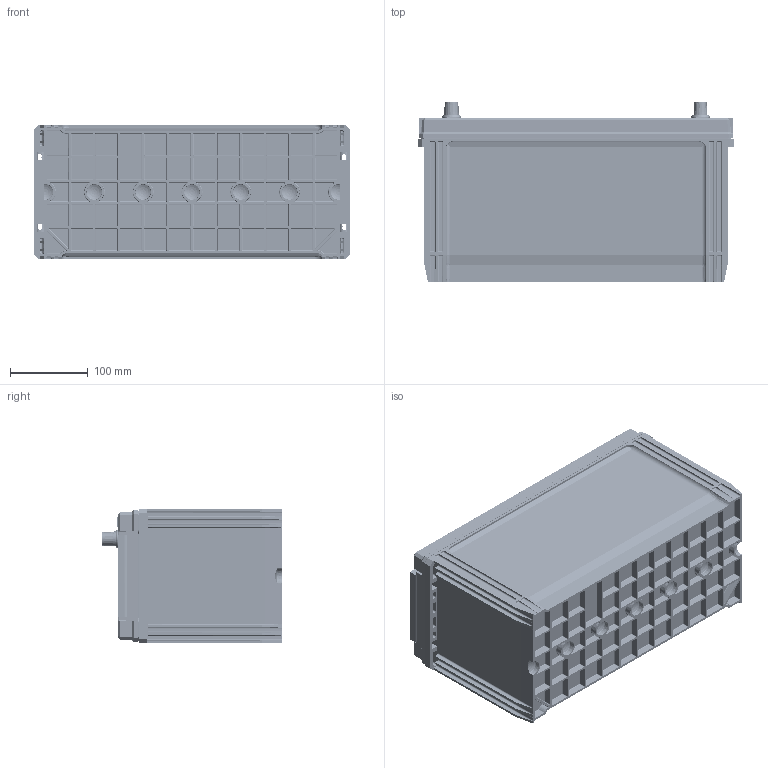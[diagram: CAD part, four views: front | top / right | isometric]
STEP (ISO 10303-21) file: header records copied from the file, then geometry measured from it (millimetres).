
FILE_DESCRIPTION (( 'STEP AP214' ), '1' );
FILE_NAME ('M100 SMSII SAE 9.26.STEP', '2016-09-26T06:06:38', ( ' ' ), ( '' ), 'SwSTEP 2.0', 'SolidWorks 2012', '' );
FILE_SCHEMA (( 'AUTOMOTIVE_DESIGN' ));
Products named in the file (12): 10477255_R01_BAT HANDLE N100; PLUG; BURN CAP; 30026412_SWP_000_CASE_50MM; 30026427_SWA_000; 30026424_SWP_000_concept 2; 30026422_SWA_000; 30026419_SWP_000; 30026418_SWP_000; 30026421_SWA_000; 30026420_SWP_000; M100 SMSII SAE 9.26
Assembly tree (18 placements, depth 5):
  M100 SMSII SAE 9.26
    30026427_SWA_000
      30026422_SWA_000
        30026421_SWA_000
          30026420_SWP_000
        30026418_SWP_000
        30026419_SWP_000
      30026424_SWP_000_concept 2
    30026412_SWP_000_CASE_50MM
    BURN CAP  x2
    PLUG  x6
    10477255_R01_BAT HANDLE N100  x2
Bounding box: 406 x 231.55 x 172 mm (x, y, z)
Volume: 1359639 mm3; surface area: 1390524 mm2
Topology: 16 solids, 17 shells, 11095 faces, 27901 edges, 15799 vertices
Faces by surface type: cylinder 3530, bspline 2917, plane 2788, sphere 795, torus 554, cone 511
Full cylindrical faces by diameter (mm): 5.8 x1, 16.07 x6, 23.432 x2, 23.88 x6, 24.5 x6, 30.56 x2, 30.87 x2
Entity records: 468269 total; most frequent: CARTESIAN_POINT 242393, ORIENTED_EDGE 52566, DIRECTION 40845, EDGE_CURVE 26283, VERTEX_POINT 15542, AXIS2_PLACEMENT_3D 15322, EDGE_LOOP 11361, FACE_OUTER_BOUND 11075
